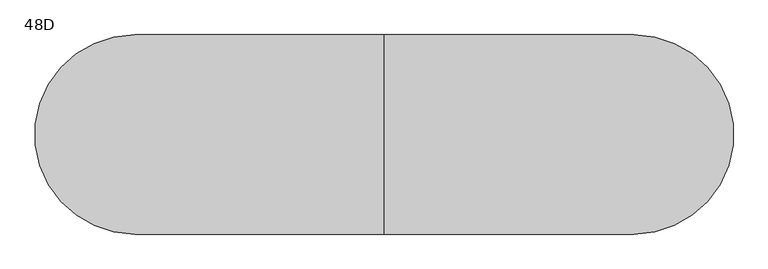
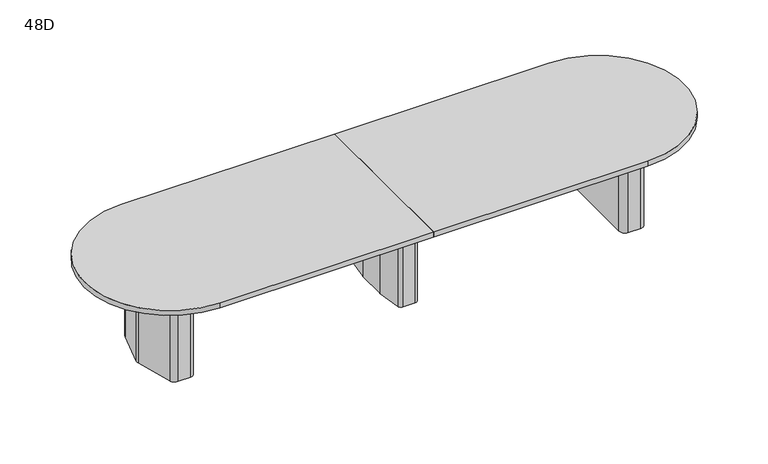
"""IFC4 building model written with IfcOpenShell, lengths in millimetres: furniture geometry, Coalesse_AM_Table_Conference_ETable2_Racetrack_14ft_ThreeBase : 48D."""

from ifc_helpers import new_model, si_unit, point, frame, frame_2d, origin, place, context, project, spatial, polyline, circle_curve, trimmed, segment, composite_curve, outline, extrude, source, transform, mapped, element, save
from ifc_brep_helpers import plane_surface, cylinder_surface, revolved_surface, advanced_brep


def furniture_48d_34605e6a(model_context):
    return source(origin(), model_context, "Body", "SolidModel", [
        advanced_brep(
        [(35.71875, 206.375, 3.175), (10.31875, 231.775, 3.175), (-10.31875, 231.775, 3.175), (-35.71875, 206.375, 3.175), (-35.71875, -206.375, 3.175), (-10.31875, -231.775, 3.175), (10.31875, -231.775, 3.175), (35.71875, -206.375, 3.175), (-61.11875, 206.375, 0.0), (-10.31875, 257.175, 0.0), (10.31875, 257.175, 0.0), (61.11875, 206.375, 0.0), (61.11875, -206.375, 0.0), (10.31875, -257.175, 0.0), (-10.31875, -257.175, 0.0), (-61.11875, -206.375, 0.0), (-61.11875, -206.375, 3.175), (-61.11875, 206.375, 3.175), (-10.31875, -257.175, 3.175), (10.31875, -257.175, 3.175), (61.11875, -206.375, 3.175), (61.11875, 206.375, 3.175), (10.31875, 257.175, 3.175), (-10.31875, 257.175, 3.175), (-92.6215974, 106.2976848, 698.5), (-92.86875, 102.7629613, 698.5), (-92.86875, -102.7629613, 698.5), (-92.6215974, -106.2976848, 698.5), (-67.7988375, -282.9347235, 698.5), (-42.6459902, -304.8, 698.5), (42.6459902, -304.8, 698.5), (67.7988375, -282.9347235, 698.5), (92.6215974, -106.2976848, 698.5), (92.86875, -102.7629613, 698.5), (92.86875, 102.7629613, 698.5), (92.6215974, 106.2976848, 698.5), (67.7988375, 282.9347235, 698.5), (42.6459902, 304.8, 698.5), (-42.6459902, 304.8, 698.5), (-67.7988375, 282.9347235, 698.5), (10.31875, 231.775, 698.5), (35.71875, 206.375, 698.5), (35.71875, -206.375, 698.5), (10.31875, -231.775, 698.5), (-10.31875, -231.775, 698.5), (-35.71875, -206.375, 698.5), (-35.71875, 206.375, 698.5), (-10.31875, 231.775, 698.5), (-92.6215974, 106.2976848, 3.175), (-67.7988375, 282.9347235, 3.175), (-42.6459902, 304.8, 3.175), (42.6459902, 304.8, 3.175), (67.7988375, 282.9347235, 3.175), (92.6215974, 106.2976848, 3.175), (92.86875, 102.7629613, 3.175), (92.86875, -102.7629613, 3.175), (92.6215974, -106.2976848, 3.175), (67.7988375, -282.9347235, 3.175), (42.6459902, -304.8, 3.175), (-42.6459902, -304.8, 3.175), (-67.7988375, -282.9347235, 3.175), (-92.6215974, -106.2976848, 3.175), (-92.86875, -102.7629613, 3.175), (-92.86875, 102.7629613, 3.175)],
        [
            (0, 1, circle_curve(frame((10.31875, 206.375, 3.175), z_axis=(0.0, 0.0, 1.0), x_axis=(1.0, 0.0, 0.0)), 25.4)),
            (1, 2),
            (2, 3, circle_curve(frame((-10.31875, 206.375, 3.175), z_axis=(0.0, 0.0, 1.0), x_axis=(1.0, 0.0, 0.0)), 25.4)),
            (3, 4),
            (4, 5, circle_curve(frame((-10.31875, -206.375, 3.175), z_axis=(0.0, 0.0, 1.0), x_axis=(1.0, 0.0, 0.0)), 25.4)),
            (5, 6),
            (6, 7, circle_curve(frame((10.31875, -206.375, 3.175), z_axis=(0.0, 0.0, 1.0), x_axis=(1.0, 0.0, 0.0)), 25.4)),
            (7, 0),
            (8, 9, circle_curve(frame((-10.31875, 206.375, 0.0), z_axis=(0.0, 0.0, -1.0), x_axis=(1.0, 0.0, 0.0)), 50.8)),
            (9, 10),
            (10, 11, circle_curve(frame((10.31875, 206.375, 0.0), z_axis=(0.0, 0.0, -1.0), x_axis=(1.0, 0.0, 0.0)), 50.8)),
            (11, 12),
            (12, 13, circle_curve(frame((10.31875, -206.375, 0.0), z_axis=(0.0, 0.0, -1.0), x_axis=(1.0, 0.0, 0.0)), 50.8)),
            (13, 14),
            (14, 15, circle_curve(frame((-10.31875, -206.375, 0.0), z_axis=(0.0, 0.0, -1.0), x_axis=(1.0, 0.0, 0.0)), 50.8)),
            (15, 8),
            (15, 16),
            (16, 17),
            (17, 8),
            (14, 18),
            (18, 16, circle_curve(frame((-10.31875, -206.375, 3.175), z_axis=(0.0, 0.0, -1.0), x_axis=(1.0, 0.0, 0.0)), 50.8)),
            (13, 19),
            (19, 18),
            (12, 20),
            (20, 19, circle_curve(frame((10.31875, -206.375, 3.175), z_axis=(0.0, 0.0, -1.0), x_axis=(1.0, 0.0, 0.0)), 50.8)),
            (11, 21),
            (21, 20),
            (10, 22),
            (22, 21, circle_curve(frame((10.31875, 206.375, 3.175), z_axis=(0.0, 0.0, -1.0), x_axis=(1.0, 0.0, 0.0)), 50.8)),
            (9, 23),
            (23, 22),
            (17, 23, circle_curve(frame((-10.31875, 206.375, 3.175), z_axis=(0.0, 0.0, -1.0), x_axis=(1.0, 0.0, 0.0)), 50.8)),
            (24, 25, circle_curve(frame((-67.46875, 102.7629613, 698.5), z_axis=(0.0, 0.0, 1.0), x_axis=(1.0, 0.0, 0.0)), 25.4)),
            (25, 26),
            (26, 27, circle_curve(frame((-67.46875, -102.7629613, 698.5), z_axis=(0.0, 0.0, 1.0), x_axis=(1.0, 0.0, 0.0)), 25.4)),
            (27, 28),
            (28, 29, circle_curve(frame((-42.6459902, -279.4, 698.5), z_axis=(0.0, 0.0, 1.0), x_axis=(1.0, 0.0, 0.0)), 25.4)),
            (29, 30),
            (30, 31, circle_curve(frame((42.6459902, -279.4, 698.5), z_axis=(0.0, 0.0, 1.0), x_axis=(1.0, 0.0, 0.0)), 25.4)),
            (31, 32),
            (32, 33, circle_curve(frame((67.46875, -102.7629613, 698.5), z_axis=(0.0, 0.0, 1.0), x_axis=(1.0, 0.0, 0.0)), 25.4)),
            (33, 34),
            (34, 35, circle_curve(frame((67.46875, 102.7629613, 698.5), z_axis=(0.0, 0.0, 1.0), x_axis=(1.0, 0.0, 0.0)), 25.4)),
            (35, 36),
            (36, 37, circle_curve(frame((42.6459902, 279.4, 698.5), z_axis=(0.0, 0.0, 1.0), x_axis=(1.0, 0.0, 0.0)), 25.4)),
            (37, 38),
            (38, 39, circle_curve(frame((-42.6459902, 279.4, 698.5), z_axis=(0.0, 0.0, 1.0), x_axis=(1.0, 0.0, 0.0)), 25.4)),
            (39, 24),
            (40, 41, circle_curve(frame((10.31875, 206.375, 698.5), z_axis=(0.0, 0.0, -1.0), x_axis=(1.0, 0.0, 0.0)), 25.4)),
            (41, 42),
            (42, 43, circle_curve(frame((10.31875, -206.375, 698.5), z_axis=(0.0, 0.0, -1.0), x_axis=(1.0, 0.0, 0.0)), 25.4)),
            (43, 44),
            (44, 45, circle_curve(frame((-10.31875, -206.375, 698.5), z_axis=(0.0, 0.0, -1.0), x_axis=(1.0, 0.0, 0.0)), 25.4)),
            (45, 46),
            (46, 47, circle_curve(frame((-10.31875, 206.375, 698.5), z_axis=(0.0, 0.0, -1.0), x_axis=(1.0, 0.0, 0.0)), 25.4)),
            (47, 40),
            (48, 49),
            (49, 50, circle_curve(frame((-42.6459902, 279.4, 3.175), z_axis=(0.0, 0.0, -1.0), x_axis=(1.0, 0.0, 0.0)), 25.4)),
            (50, 51),
            (51, 52, circle_curve(frame((42.6459902, 279.4, 3.175), z_axis=(0.0, 0.0, -1.0), x_axis=(1.0, 0.0, 0.0)), 25.4)),
            (52, 53),
            (53, 54, circle_curve(frame((67.46875, 102.7629613, 3.175), z_axis=(0.0, 0.0, -1.0), x_axis=(1.0, 0.0, 0.0)), 25.4)),
            (54, 55),
            (55, 56, circle_curve(frame((67.46875, -102.7629613, 3.175), z_axis=(0.0, 0.0, -1.0), x_axis=(1.0, 0.0, 0.0)), 25.4)),
            (56, 57),
            (57, 58, circle_curve(frame((42.6459902, -279.4, 3.175), z_axis=(0.0, 0.0, -1.0), x_axis=(1.0, 0.0, 0.0)), 25.4)),
            (58, 59),
            (59, 60, circle_curve(frame((-42.6459902, -279.4, 3.175), z_axis=(0.0, 0.0, -1.0), x_axis=(1.0, 0.0, 0.0)), 25.4)),
            (60, 61),
            (61, 62, circle_curve(frame((-67.46875, -102.7629613, 3.175), z_axis=(0.0, 0.0, -1.0), x_axis=(1.0, 0.0, 0.0)), 25.4)),
            (62, 63),
            (63, 48, circle_curve(frame((-67.46875, 102.7629613, 3.175), z_axis=(0.0, 0.0, -1.0), x_axis=(1.0, 0.0, 0.0)), 25.4)),
            (24, 48),
            (63, 25),
            (62, 26),
            (61, 27),
            (60, 28),
            (59, 29),
            (58, 30),
            (57, 31),
            (56, 32),
            (55, 33),
            (54, 34),
            (53, 35),
            (52, 36),
            (51, 37),
            (50, 38),
            (49, 39),
            (40, 1),
            (0, 41),
            (7, 42),
            (6, 43),
            (5, 44),
            (4, 45),
            (3, 46),
            (2, 47),
        ],
        [
            plane_surface(frame((-61.11875, -206.375, 3.175), z_axis=(0.0, 0.0, 1.0), x_axis=(0.0, -1.0, 0.0))),
            plane_surface(frame((-61.11875, -206.375, 0.0), z_axis=(0.0, 0.0, -1.0), x_axis=(0.0, 1.0, 0.0))),
            plane_surface(frame((-61.11875, 206.375, 3.175), z_axis=(-1.0, 0.0, 0.0), x_axis=(0.0, 0.0, -1.0))),
            cylinder_surface(frame((-10.31875, -206.375, 0.0), z_axis=(0.0, 0.0, 1.0), x_axis=(1.0, 0.0, 0.0)), 50.8),
            plane_surface(frame((-10.31875, -257.175, 3.175), z_axis=(0.0, -1.0, 0.0), x_axis=(0.0, 0.0, -1.0))),
            cylinder_surface(frame((10.31875, -206.375, 0.0), z_axis=(0.0, 0.0, 1.0), x_axis=(1.0, 0.0, 0.0)), 50.8),
            plane_surface(frame((61.11875, -206.375, 3.175), z_axis=(1.0, 0.0, 0.0), x_axis=(0.0, 0.0, -1.0))),
            cylinder_surface(frame((10.31875, 206.375, 0.0), z_axis=(0.0, 0.0, 1.0), x_axis=(1.0, 0.0, 0.0)), 50.8),
            plane_surface(frame((10.31875, 257.175, 3.175), z_axis=(0.0, 1.0, 0.0), x_axis=(0.0, 0.0, -1.0))),
            cylinder_surface(frame((-10.31875, 206.375, 0.0), z_axis=(0.0, 0.0, 1.0), x_axis=(1.0, 0.0, 0.0)), 50.8),
            plane_surface(frame((-42.06875, 102.7629613, 698.5), z_axis=(0.0, 0.0, 1.0), x_axis=(0.0, 1.0, 0.0))),
            plane_surface(frame((-42.06875, 102.7629613, 3.175), z_axis=(0.0, 0.0, -1.0), x_axis=(0.0, -1.0, 0.0))),
            cylinder_surface(frame((-67.46875, 102.7629613, 3.175), z_axis=(0.0, 0.0, 1.0), x_axis=(1.0, 0.0, 0.0)), 25.4),
            plane_surface(frame((-92.86875, 102.7629613, 698.5), z_axis=(-1.0, 0.0, 0.0), x_axis=(0.0, 0.0, -1.0))),
            cylinder_surface(frame((-67.46875, -102.7629613, 3.175), z_axis=(0.0, 0.0, 1.0), x_axis=(1.0, 0.0, 0.0)), 25.4),
            plane_surface(frame((-92.6215974, -106.2976848, 698.5), z_axis=(-0.9902695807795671, -0.13916234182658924, 0.0), x_axis=(0.0, 0.0, -1.0))),
            cylinder_surface(frame((-42.6459902, -279.4, 3.175), z_axis=(0.0, 0.0, 1.0), x_axis=(1.0, 0.0, 0.0)), 25.4),
            plane_surface(frame((-42.6459902, -304.8, 698.5), z_axis=(0.0, -1.0, 0.0), x_axis=(0.0, 0.0, -1.0))),
            cylinder_surface(frame((42.6459902, -279.4, 3.175), z_axis=(0.0, 0.0, 1.0), x_axis=(1.0, 0.0, 0.0)), 25.4),
            plane_surface(frame((67.7988375, -282.9347235, 698.5), z_axis=(0.9902695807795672, -0.13916234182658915, 0.0), x_axis=(0.0, 0.0, -1.0))),
            cylinder_surface(frame((67.46875, -102.7629613, 3.175), z_axis=(0.0, 0.0, 1.0), x_axis=(1.0, 0.0, 0.0)), 25.4),
            plane_surface(frame((92.86875, -102.7629613, 698.5), z_axis=(1.0, 0.0, 0.0), x_axis=(0.0, 0.0, -1.0))),
            cylinder_surface(frame((67.46875, 102.7629613, 3.175), z_axis=(0.0, 0.0, 1.0), x_axis=(1.0, 0.0, 0.0)), 25.4),
            plane_surface(frame((92.6215974, 106.2976848, 698.5), z_axis=(0.9902695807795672, 0.1391623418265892, 0.0), x_axis=(0.0, 0.0, -1.0))),
            cylinder_surface(frame((42.6459902, 279.4, 3.175), z_axis=(0.0, 0.0, 1.0), x_axis=(1.0, 0.0, 0.0)), 25.4),
            plane_surface(frame((42.6459902, 304.8, 698.5), z_axis=(0.0, 1.0, 0.0), x_axis=(0.0, 0.0, -1.0))),
            cylinder_surface(frame((-42.6459902, 279.4, 3.175), z_axis=(0.0, 0.0, 1.0), x_axis=(1.0, 0.0, 0.0)), 25.4),
            plane_surface(frame((-67.7988375, 282.9347235, 698.5), z_axis=(-0.9902695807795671, 0.13916234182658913, 0.0), x_axis=(0.0, 0.0, -1.0))),
            revolved_surface(polyline([(35.71875, 206.375, 3.175), (35.71875, 206.375, 698.5)]), (10.31875, 206.375, 0.0), (0.0, 0.0, -1.0)),
            plane_surface(frame((35.71875, 206.375, 698.5), z_axis=(-1.0, 0.0, 0.0), x_axis=(0.0, 0.0, -1.0))),
            revolved_surface(polyline([(35.71875, -206.375, 3.175), (35.71875, -206.375, 698.5)]), (10.31875, -206.375, 0.0), (0.0, 0.0, -1.0)),
            plane_surface(frame((10.31875, -231.775, 698.5), z_axis=(0.0, 1.0, 0.0), x_axis=(0.0, 0.0, -1.0))),
            revolved_surface(polyline([(15.081249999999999, -206.375, 3.175), (15.081249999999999, -206.375, 698.5)]), (-10.31875, -206.375, 0.0), (0.0, 0.0, -1.0)),
            plane_surface(frame((-35.71875, -206.375, 698.5), z_axis=(1.0, 0.0, 0.0), x_axis=(0.0, 0.0, -1.0))),
            revolved_surface(polyline([(15.081249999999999, 206.375, 3.175), (15.081249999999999, 206.375, 698.5)]), (-10.31875, 206.375, 0.0), (0.0, 0.0, -1.0)),
            plane_surface(frame((-10.31875, 231.775, 698.5), z_axis=(0.0, -1.0, 0.0), x_axis=(0.0, 0.0, -1.0))),
        ],
        [
            (0, [[1, 2, 3, 4, 5, 6, 7, 8]]),
            (1, [[9, 10, 11, 12, 13, 14, 15, 16]]),
            (2, [[-16, 17, 18, 19]]),
            (3, [[-15, 20, 21, -17]]),
            (4, [[-14, 22, 23, -20]]),
            (5, [[-13, 24, 25, -22]]),
            (6, [[-12, 26, 27, -24]]),
            (7, [[-11, 28, 29, -26]]),
            (8, [[-10, 30, 31, -28]]),
            (9, [[-9, -19, 32, -30]]),
            (10, [[33, 34, 35, 36, 37, 38, 39, 40, 41, 42, 43, 44, 45, 46, 47, 48], [49, 50, 51, 52, 53, 54, 55, 56]]),
            (11, [[57, 58, 59, 60, 61, 62, 63, 64, 65, 66, 67, 68, 69, 70, 71, 72], [-18, -21, -23, -25, -27, -29, -31, -32]]),
            (12, [[-33, 73, -72, 74]]),
            (13, [[-34, -74, -71, 75]]),
            (14, [[-35, -75, -70, 76]]),
            (15, [[-36, -76, -69, 77]]),
            (16, [[-37, -77, -68, 78]]),
            (17, [[-38, -78, -67, 79]]),
            (18, [[-39, -79, -66, 80]]),
            (19, [[-40, -80, -65, 81]]),
            (20, [[-41, -81, -64, 82]]),
            (21, [[-42, -82, -63, 83]]),
            (22, [[-43, -83, -62, 84]]),
            (23, [[-44, -84, -61, 85]]),
            (24, [[-45, -85, -60, 86]]),
            (25, [[-46, -86, -59, 87]]),
            (26, [[-47, -87, -58, 88]]),
            (27, [[-48, -88, -57, -73]]),
            (28, [[-49, 89, -1, 90]]),
            (29, [[-50, -90, -8, 91]]),
            (30, [[-51, -91, -7, 92]]),
            (31, [[-52, -92, -6, 93]]),
            (32, [[-53, -93, -5, 94]]),
            (33, [[-54, -94, -4, 95]]),
            (34, [[-55, -95, -3, 96]]),
            (35, [[-56, -96, -2, -89]]),
        ],
    ),
        advanced_brep(
        [(1687.724548, 274.2093613, 698.5), (1647.8579246, 304.8, 698.5), (1558.925, 304.8, 698.5), (1517.65, 263.525, 698.5), (1517.65, -263.525, 698.5), (1558.925, -304.8, 698.5), (1647.8579246, -304.8, 698.5), (1687.724548, -274.2093613, 698.5), (1758.3503901, -10.6333708, 698.5), (1758.3503901, 10.6333708, 698.5), (1555.75, -206.375, 698.5), (1555.75, 206.375, 698.5), (1581.15, 231.775, 698.5), (1640.1608422, 231.775, 698.5), (1664.695338, 212.9490792, 698.5), (1703.3875, 68.54974, 698.5), (1703.3875, -68.54974, 698.5), (1664.695338, -212.9490792, 698.5), (1640.1608422, -231.775, 698.5), (1581.15, -231.775, 698.5), (1687.724548, 274.2093613, 3.175), (1758.3503901, 10.6333708, 3.175), (1758.3503901, -10.6333708, 3.175), (1687.724548, -274.2093613, 3.175), (1647.8579246, -304.8, 3.175), (1558.925, -304.8, 3.175), (1517.65, -263.525, 3.175), (1517.65, 263.525, 3.175), (1558.925, 304.8, 3.175), (1647.8579246, 304.8, 3.175), (1676.9625859, 216.2361187, 3.175), (1640.1608422, 244.475, 3.175), (1581.15, 244.475, 3.175), (1543.05, 206.375, 3.175), (1543.05, -206.375, 3.175), (1581.15, -244.475, 3.175), (1640.1608422, -244.475, 3.175), (1676.9625859, -216.2361187, 3.175), (1716.0875, -70.2217466, 3.175), (1716.0875, 70.2217466, 3.175), (1581.15, -231.775, 3.175), (1555.75, -206.375, 3.175), (1640.1608422, -231.775, 3.175), (1664.695338, -212.9490792, 3.175), (1703.3875, -68.54974, 3.175), (1703.3875, 68.54974, 3.175), (1664.695338, 212.9490792, 3.175), (1640.1608422, 231.775, 3.175), (1581.15, 231.775, 3.175), (1555.75, 206.375, 3.175), (1676.9625859, 216.2361187, 0.0), (1716.0875, 70.2217466, 0.0), (1716.0875, -70.2217466, 0.0), (1676.9625859, -216.2361187, 0.0), (1640.1608422, -244.475, 0.0), (1581.15, -244.475, 0.0), (1543.05, -206.375, 0.0), (1543.05, 206.375, 0.0), (1581.15, 244.475, 0.0), (1640.1608422, 244.475, 0.0)],
        [
            (0, 1, circle_curve(frame((1647.8579246, 263.5270004, 698.5), z_axis=(0.0, 0.0, 1.0), x_axis=(-1.0, 0.0, 0.0)), 41.2729996)),
            (1, 2),
            (2, 3, circle_curve(frame((1558.925, 263.525, 698.5), z_axis=(0.0, 0.0, 1.0), x_axis=(-1.0, 0.0, 0.0)), 41.275)),
            (3, 4),
            (4, 5, circle_curve(frame((1558.925, -263.525, 698.5), z_axis=(0.0, 0.0, 1.0), x_axis=(-1.0, 0.0, 0.0)), 41.275)),
            (5, 6),
            (6, 7, circle_curve(frame((1647.8579246, -263.5270004, 698.5), z_axis=(0.0, 0.0, 1.0), x_axis=(-1.0, 0.0, 0.0)), 41.2729996)),
            (7, 8),
            (8, 9, circle_curve(frame((1718.6665979, 0.0, 698.5), z_axis=(0.0, 0.0, 1.0), x_axis=(-1.0, 0.0, 0.0)), 41.0837187)),
            (9, 0),
            (10, 11),
            (11, 12, circle_curve(frame((1581.15, 206.375, 698.5), z_axis=(0.0, 0.0, -1.0), x_axis=(-1.0, 0.0, 0.0)), 25.4)),
            (12, 13),
            (13, 14, circle_curve(frame((1640.1608422, 206.375, 698.5), z_axis=(0.0, 0.0, -1.0), x_axis=(-1.0, 0.0, 0.0)), 25.4)),
            (14, 15),
            (15, 16),
            (16, 17),
            (17, 18, circle_curve(frame((1640.1608422, -206.375, 698.5), z_axis=(0.0, 0.0, -1.0), x_axis=(-1.0, 0.0, 0.0)), 25.4)),
            (18, 19),
            (19, 10, circle_curve(frame((1581.15, -206.375, 698.5), z_axis=(0.0, 0.0, -1.0), x_axis=(-1.0, 0.0, 0.0)), 25.4)),
            (20, 21),
            (21, 22, circle_curve(frame((1718.6665979, 0.0, 3.175), z_axis=(0.0, 0.0, -1.0), x_axis=(-1.0, 0.0, 0.0)), 41.0837187)),
            (22, 23),
            (23, 24, circle_curve(frame((1647.8579246, -263.5270004, 3.175), z_axis=(0.0, 0.0, -1.0), x_axis=(-1.0, 0.0, 0.0)), 41.2729996)),
            (24, 25),
            (25, 26, circle_curve(frame((1558.925, -263.525, 3.175), z_axis=(0.0, 0.0, -1.0), x_axis=(-1.0, 0.0, 0.0)), 41.275)),
            (26, 27),
            (27, 28, circle_curve(frame((1558.925, 263.525, 3.175), z_axis=(0.0, 0.0, -1.0), x_axis=(-1.0, 0.0, 0.0)), 41.275)),
            (28, 29),
            (29, 20, circle_curve(frame((1647.8579246, 263.5270004, 3.175), z_axis=(0.0, 0.0, -1.0), x_axis=(-1.0, 0.0, 0.0)), 41.2729996)),
            (30, 31, circle_curve(frame((1640.1608422, 206.375, 3.175), z_axis=(0.0, 0.0, 1.0), x_axis=(-1.0, 0.0, 0.0)), 38.1)),
            (31, 32),
            (32, 33, circle_curve(frame((1581.15, 206.375, 3.175), z_axis=(0.0, 0.0, 1.0), x_axis=(-1.0, 0.0, 0.0)), 38.1)),
            (33, 34),
            (34, 35, circle_curve(frame((1581.15, -206.375, 3.175), z_axis=(0.0, 0.0, 1.0), x_axis=(-1.0, 0.0, 0.0)), 38.1)),
            (35, 36),
            (36, 37, circle_curve(frame((1640.1608422, -206.375, 3.175), z_axis=(0.0, 0.0, 1.0), x_axis=(-1.0, 0.0, 0.0)), 38.1)),
            (37, 38),
            (38, 39),
            (39, 30),
            (9, 21),
            (20, 0),
            (8, 22),
            (7, 23),
            (6, 24),
            (5, 25),
            (4, 26),
            (3, 27),
            (2, 28),
            (1, 29),
            (19, 40),
            (40, 41, circle_curve(frame((1581.15, -206.375, 3.175), z_axis=(0.0, 0.0, -1.0), x_axis=(-1.0, 0.0, 0.0)), 25.4)),
            (41, 10),
            (18, 42),
            (42, 40),
            (17, 43),
            (43, 42, circle_curve(frame((1640.1608422, -206.375, 3.175), z_axis=(0.0, 0.0, -1.0), x_axis=(-1.0, 0.0, 0.0)), 25.4)),
            (16, 44),
            (44, 43),
            (15, 45),
            (45, 44),
            (14, 46),
            (46, 45),
            (13, 47),
            (47, 46, circle_curve(frame((1640.1608422, 206.375, 3.175), z_axis=(0.0, 0.0, -1.0), x_axis=(-1.0, 0.0, 0.0)), 25.4)),
            (12, 48),
            (48, 47),
            (11, 49),
            (49, 48, circle_curve(frame((1581.15, 206.375, 3.175), z_axis=(0.0, 0.0, -1.0), x_axis=(-1.0, 0.0, 0.0)), 25.4)),
            (41, 49),
            (50, 51),
            (51, 52),
            (52, 53),
            (53, 54, circle_curve(frame((1640.1608422, -206.375, 0.0), z_axis=(0.0, 0.0, -1.0), x_axis=(-1.0, 0.0, 0.0)), 38.1)),
            (54, 55),
            (55, 56, circle_curve(frame((1581.15, -206.375, 0.0), z_axis=(0.0, 0.0, -1.0), x_axis=(-1.0, 0.0, 0.0)), 38.1)),
            (56, 57),
            (57, 58, circle_curve(frame((1581.15, 206.375, 0.0), z_axis=(0.0, 0.0, -1.0), x_axis=(-1.0, 0.0, 0.0)), 38.1)),
            (58, 59),
            (59, 50, circle_curve(frame((1640.1608422, 206.375, 0.0), z_axis=(0.0, 0.0, -1.0), x_axis=(-1.0, 0.0, 0.0)), 38.1)),
            (50, 30),
            (39, 51),
            (38, 52),
            (37, 53),
            (36, 54),
            (35, 55),
            (34, 56),
            (33, 57),
            (32, 58),
            (31, 59),
        ],
        [
            plane_surface(frame((1758.3374275, 10.6817473, 698.5), z_axis=(0.0, 0.0, 1.0000000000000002), x_axis=(0.25882201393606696, -0.9659250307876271, 0.0))),
            plane_surface(frame((1758.3374275, 10.6817473, 3.175), z_axis=(0.0, 0.0, -1.0000000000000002), x_axis=(-0.25882201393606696, 0.9659250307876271, 0.0))),
            plane_surface(frame((1687.724548, 274.2093613, 698.5), z_axis=(0.9659250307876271, 0.25882201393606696, 0.0), x_axis=(0.0, 0.0, -1.0))),
            cylinder_surface(frame((1718.6665979, 0.0, 3.175), z_axis=(0.0, 0.0, 1.0), x_axis=(-1.0, 0.0, 0.0)), 41.0837187),
            plane_surface(frame((1758.3503901, -10.6333708, 698.5), z_axis=(0.9659250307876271, -0.2588220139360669, 0.0), x_axis=(0.0, 0.0, -1.0))),
            cylinder_surface(frame((1647.8579246, -263.5270004, 3.175), z_axis=(0.0, 0.0, 1.0), x_axis=(-1.0, 0.0, 0.0)), 41.2729996),
            plane_surface(frame((1647.8579246, -304.8, 698.5), z_axis=(0.0, -1.0, 0.0), x_axis=(0.0, 0.0, -1.0))),
            cylinder_surface(frame((1558.925, -263.525, 3.175), z_axis=(0.0, 0.0, 1.0), x_axis=(-1.0, 0.0, 0.0)), 41.275),
            plane_surface(frame((1517.65, -263.525, 698.5), z_axis=(-1.0, 0.0, 0.0), x_axis=(0.0, 0.0, -1.0))),
            cylinder_surface(frame((1558.925, 263.525, 3.175), z_axis=(0.0, 0.0, 1.0), x_axis=(-1.0, 0.0, 0.0)), 41.275),
            plane_surface(frame((1558.925, 304.8, 698.5), z_axis=(0.0, 1.0, 0.0), x_axis=(0.0, 0.0, -1.0))),
            cylinder_surface(frame((1647.8579246, 263.5270004, 3.175), z_axis=(0.0, 0.0, 1.0), x_axis=(-1.0, 0.0, 0.0)), 41.2729996),
            revolved_surface(polyline([(1555.75, -206.375, 3.175), (1555.75, -206.375, 698.5)]), (1581.15, -206.375, 0.0), (0.0, 0.0, -1.0)),
            plane_surface(frame((1581.15, -231.775, 698.5), z_axis=(0.0, 1.0, 0.0), x_axis=(0.0, 0.0, -1.0))),
            revolved_surface(polyline([(1614.7608421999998, -206.375, 3.175), (1614.7608421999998, -206.375, 698.5)]), (1640.1608422, -206.375, 0.0), (0.0, 0.0, -1.0)),
            plane_surface(frame((1664.695338, -212.9490792, 698.5), z_axis=(-0.9659250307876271, 0.2588220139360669, 0.0), x_axis=(0.0, 0.0, -1.0))),
            plane_surface(frame((1703.3875, -68.54974, 698.5), z_axis=(-1.0, 0.0, 0.0), x_axis=(0.0, 0.0, -1.0))),
            plane_surface(frame((1703.3875, 68.54974, 698.5), z_axis=(-0.9659250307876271, -0.25882201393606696, 0.0), x_axis=(0.0, 0.0, -1.0))),
            revolved_surface(polyline([(1614.7608421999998, 206.375, 3.175), (1614.7608421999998, 206.375, 698.5)]), (1640.1608422, 206.375, 0.0), (0.0, 0.0, -1.0)),
            plane_surface(frame((1640.1608422, 231.775, 698.5), z_axis=(0.0, -1.0, 0.0), x_axis=(0.0, 0.0, -1.0))),
            revolved_surface(polyline([(1555.75, 206.375, 3.175), (1555.75, 206.375, 698.5)]), (1581.15, 206.375, 0.0), (0.0, 0.0, -1.0)),
            plane_surface(frame((1555.75, 206.375, 698.5), z_axis=(1.0, 0.0, 0.0), x_axis=(0.0, 0.0, -1.0))),
            plane_surface(frame((1715.6547479, 71.8367796, 3.175), z_axis=(0.0, 0.0, 1.0), x_axis=(0.25882201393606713, -0.965925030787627, 0.0))),
            plane_surface(frame((1715.6547479, 71.8367796, 0.0), z_axis=(0.0, 0.0, -1.0), x_axis=(-0.25882201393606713, 0.965925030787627, 0.0))),
            plane_surface(frame((1676.9625859, 216.2361187, 3.175), z_axis=(0.965925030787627, 0.25882201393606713, 0.0), x_axis=(0.0, 0.0, -1.0))),
            plane_surface(frame((1716.0875, 70.2217466, 3.175), z_axis=(1.0, 0.0, 0.0), x_axis=(0.0, 0.0, -1.0))),
            plane_surface(frame((1716.0875, -70.2217466, 3.175), z_axis=(0.9659250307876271, -0.2588220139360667, 0.0), x_axis=(0.0, 0.0, -1.0))),
            cylinder_surface(frame((1640.1608422, -206.375, 0.0), z_axis=(0.0, 0.0, 1.0), x_axis=(-1.0, 0.0, 0.0)), 38.1),
            plane_surface(frame((1640.1608422, -244.475, 3.175), z_axis=(0.0, -1.0, 0.0), x_axis=(0.0, 0.0, -1.0))),
            cylinder_surface(frame((1581.15, -206.375, 0.0), z_axis=(0.0, 0.0, 1.0), x_axis=(-1.0, 0.0, 0.0)), 38.1),
            plane_surface(frame((1543.05, -206.375, 3.175), z_axis=(-1.0, 0.0, 0.0), x_axis=(0.0, 0.0, -1.0))),
            cylinder_surface(frame((1581.15, 206.375, 0.0), z_axis=(0.0, 0.0, 1.0), x_axis=(-1.0, 0.0, 0.0)), 38.1),
            plane_surface(frame((1581.15, 244.475, 3.175), z_axis=(0.0, 1.0, 0.0), x_axis=(0.0, 0.0, -1.0))),
            cylinder_surface(frame((1640.1608422, 206.375, 0.0), z_axis=(0.0, 0.0, 1.0), x_axis=(-1.0, 0.0, 0.0)), 38.1),
        ],
        [
            (0, [[1, 2, 3, 4, 5, 6, 7, 8, 9, 10], [11, 12, 13, 14, 15, 16, 17, 18, 19, 20]]),
            (1, [[21, 22, 23, 24, 25, 26, 27, 28, 29, 30], [31, 32, 33, 34, 35, 36, 37, 38, 39, 40]]),
            (2, [[41, -21, 42, -10]]),
            (3, [[43, -22, -41, -9]]),
            (4, [[44, -23, -43, -8]]),
            (5, [[45, -24, -44, -7]]),
            (6, [[46, -25, -45, -6]]),
            (7, [[47, -26, -46, -5]]),
            (8, [[48, -27, -47, -4]]),
            (9, [[49, -28, -48, -3]]),
            (10, [[50, -29, -49, -2]]),
            (11, [[-42, -30, -50, -1]]),
            (12, [[51, 52, 53, -20]]),
            (13, [[54, 55, -51, -19]]),
            (14, [[56, 57, -54, -18]]),
            (15, [[58, 59, -56, -17]]),
            (16, [[60, 61, -58, -16]]),
            (17, [[62, 63, -60, -15]]),
            (18, [[64, 65, -62, -14]]),
            (19, [[66, 67, -64, -13]]),
            (20, [[68, 69, -66, -12]]),
            (21, [[-53, 70, -68, -11]]),
            (22, [[-55, -57, -59, -61, -63, -65, -67, -69, -70, -52]]),
            (23, [[71, 72, 73, 74, 75, 76, 77, 78, 79, 80]]),
            (24, [[81, -40, 82, -71]]),
            (25, [[-82, -39, 83, -72]]),
            (26, [[-83, -38, 84, -73]]),
            (27, [[-84, -37, 85, -74]]),
            (28, [[-85, -36, 86, -75]]),
            (29, [[-86, -35, 87, -76]]),
            (30, [[-87, -34, 88, -77]]),
            (31, [[-88, -33, 89, -78]]),
            (32, [[-89, -32, 90, -79]]),
            (33, [[-90, -31, -81, -80]]),
        ],
    ),
        advanced_brep(
        [(-1686.137048, 274.2093613, 698.5), (-1756.7628901, 10.6333708, 698.5), (-1756.7628901, -10.6333708, 698.5), (-1686.137048, -274.2093613, 698.5), (-1646.2704246, -304.8, 698.5), (-1557.3375, -304.8, 698.5), (-1516.0625, -263.525, 698.5), (-1516.0625, 263.525, 698.5), (-1557.3375, 304.8, 698.5), (-1646.2704246, 304.8, 698.5), (-1554.1625, -206.375, 698.5), (-1579.5625, -231.775, 698.5), (-1638.5733422, -231.775, 698.5), (-1663.107838, -212.9490792, 698.5), (-1701.8, -68.54974, 698.5), (-1701.8, 68.54974, 698.5), (-1663.107838, 212.9490792, 698.5), (-1638.5733422, 231.775, 698.5), (-1579.5625, 231.775, 698.5), (-1554.1625, 206.375, 698.5), (-1686.137048, 274.2093613, 3.175), (-1646.2704246, 304.8, 3.175), (-1557.3375, 304.8, 3.175), (-1516.0625, 263.525, 3.175), (-1516.0625, -263.525, 3.175), (-1557.3375, -304.8, 3.175), (-1646.2704246, -304.8, 3.175), (-1686.137048, -274.2093613, 3.175), (-1756.7628901, -10.6333708, 3.175), (-1756.7628901, 10.6333708, 3.175), (-1675.3750859, 216.2361187, 3.175), (-1714.5, 70.2217466, 3.175), (-1714.5, -70.2217466, 3.175), (-1675.3750859, -216.2361187, 3.175), (-1638.5733422, -244.475, 3.175), (-1579.5625, -244.475, 3.175), (-1541.4625, -206.375, 3.175), (-1541.4625, 206.375, 3.175), (-1579.5625, 244.475, 3.175), (-1638.5733422, 244.475, 3.175), (-1554.1625, -206.375, 3.175), (-1579.5625, -231.775, 3.175), (-1638.5733422, -231.775, 3.175), (-1663.107838, -212.9490792, 3.175), (-1701.8, -68.54974, 3.175), (-1701.8, 68.54974, 3.175), (-1663.107838, 212.9490792, 3.175), (-1638.5733422, 231.775, 3.175), (-1579.5625, 231.775, 3.175), (-1554.1625, 206.375, 3.175), (-1675.3750859, 216.2361187, 0.0), (-1638.5733422, 244.475, 0.0), (-1579.5625, 244.475, 0.0), (-1541.4625, 206.375, 0.0), (-1541.4625, -206.375, 0.0), (-1579.5625, -244.475, 0.0), (-1638.5733422, -244.475, 0.0), (-1675.3750859, -216.2361187, 0.0), (-1714.5, -70.2217466, 0.0), (-1714.5, 70.2217466, 0.0)],
        [
            (0, 1),
            (1, 2, circle_curve(frame((-1717.0790979, 0.0, 698.5), z_axis=(0.0, 0.0, 1.0), x_axis=(1.0, 0.0, 0.0)), 41.0837187)),
            (2, 3),
            (3, 4, circle_curve(frame((-1646.2704246, -263.5270004, 698.5), z_axis=(0.0, 0.0, 1.0), x_axis=(1.0, 0.0, 0.0)), 41.2729996)),
            (4, 5),
            (5, 6, circle_curve(frame((-1557.3375, -263.525, 698.5), z_axis=(0.0, 0.0, 1.0), x_axis=(1.0, 0.0, 0.0)), 41.275)),
            (6, 7),
            (7, 8, circle_curve(frame((-1557.3375, 263.525, 698.5), z_axis=(0.0, 0.0, 1.0), x_axis=(1.0, 0.0, 0.0)), 41.275)),
            (8, 9),
            (9, 0, circle_curve(frame((-1646.2704246, 263.5270004, 698.5), z_axis=(0.0, 0.0, 1.0), x_axis=(1.0, 0.0, 0.0)), 41.2729996)),
            (10, 11, circle_curve(frame((-1579.5625, -206.375, 698.5), z_axis=(0.0, 0.0, -1.0), x_axis=(1.0, 0.0, 0.0)), 25.4)),
            (11, 12),
            (12, 13, circle_curve(frame((-1638.5733422, -206.375, 698.5), z_axis=(0.0, 0.0, -1.0), x_axis=(1.0, 0.0, 0.0)), 25.4)),
            (13, 14),
            (14, 15),
            (15, 16),
            (16, 17, circle_curve(frame((-1638.5733422, 206.375, 698.5), z_axis=(0.0, 0.0, -1.0), x_axis=(1.0, 0.0, 0.0)), 25.4)),
            (17, 18),
            (18, 19, circle_curve(frame((-1579.5625, 206.375, 698.5), z_axis=(0.0, 0.0, -1.0), x_axis=(1.0, 0.0, 0.0)), 25.4)),
            (19, 10),
            (20, 21, circle_curve(frame((-1646.2704246, 263.5270004, 3.175), z_axis=(0.0, 0.0, -1.0), x_axis=(1.0, 0.0, 0.0)), 41.2729996)),
            (21, 22),
            (22, 23, circle_curve(frame((-1557.3375, 263.525, 3.175), z_axis=(0.0, 0.0, -1.0), x_axis=(1.0, 0.0, 0.0)), 41.275)),
            (23, 24),
            (24, 25, circle_curve(frame((-1557.3375, -263.525, 3.175), z_axis=(0.0, 0.0, -1.0), x_axis=(1.0, 0.0, 0.0)), 41.275)),
            (25, 26),
            (26, 27, circle_curve(frame((-1646.2704246, -263.5270004, 3.175), z_axis=(0.0, 0.0, -1.0), x_axis=(1.0, 0.0, 0.0)), 41.2729996)),
            (27, 28),
            (28, 29, circle_curve(frame((-1717.0790979, 0.0, 3.175), z_axis=(0.0, 0.0, -1.0), x_axis=(1.0, 0.0, 0.0)), 41.0837187)),
            (29, 20),
            (30, 31),
            (31, 32),
            (32, 33),
            (33, 34, circle_curve(frame((-1638.5733422, -206.375, 3.175), z_axis=(0.0, 0.0, 1.0), x_axis=(1.0, 0.0, 0.0)), 38.1)),
            (34, 35),
            (35, 36, circle_curve(frame((-1579.5625, -206.375, 3.175), z_axis=(0.0, 0.0, 1.0), x_axis=(1.0, 0.0, 0.0)), 38.1)),
            (36, 37),
            (37, 38, circle_curve(frame((-1579.5625, 206.375, 3.175), z_axis=(0.0, 0.0, 1.0), x_axis=(1.0, 0.0, 0.0)), 38.1)),
            (38, 39),
            (39, 30, circle_curve(frame((-1638.5733422, 206.375, 3.175), z_axis=(0.0, 0.0, 1.0), x_axis=(1.0, 0.0, 0.0)), 38.1)),
            (0, 20),
            (29, 1),
            (28, 2),
            (27, 3),
            (26, 4),
            (25, 5),
            (24, 6),
            (23, 7),
            (22, 8),
            (21, 9),
            (10, 40),
            (40, 41, circle_curve(frame((-1579.5625, -206.375, 3.175), z_axis=(0.0, 0.0, -1.0), x_axis=(1.0, 0.0, 0.0)), 25.4)),
            (41, 11),
            (41, 42),
            (42, 12),
            (42, 43, circle_curve(frame((-1638.5733422, -206.375, 3.175), z_axis=(0.0, 0.0, -1.0), x_axis=(1.0, 0.0, 0.0)), 25.4)),
            (43, 13),
            (43, 44),
            (44, 14),
            (44, 45),
            (45, 15),
            (45, 46),
            (46, 16),
            (46, 47, circle_curve(frame((-1638.5733422, 206.375, 3.175), z_axis=(0.0, 0.0, -1.0), x_axis=(1.0, 0.0, 0.0)), 25.4)),
            (47, 17),
            (47, 48),
            (48, 18),
            (48, 49, circle_curve(frame((-1579.5625, 206.375, 3.175), z_axis=(0.0, 0.0, -1.0), x_axis=(1.0, 0.0, 0.0)), 25.4)),
            (49, 19),
            (49, 40),
            (50, 51, circle_curve(frame((-1638.5733422, 206.375, 0.0), z_axis=(0.0, 0.0, -1.0), x_axis=(1.0, 0.0, 0.0)), 38.1)),
            (51, 52),
            (52, 53, circle_curve(frame((-1579.5625, 206.375, 0.0), z_axis=(0.0, 0.0, -1.0), x_axis=(1.0, 0.0, 0.0)), 38.1)),
            (53, 54),
            (54, 55, circle_curve(frame((-1579.5625, -206.375, 0.0), z_axis=(0.0, 0.0, -1.0), x_axis=(1.0, 0.0, 0.0)), 38.1)),
            (55, 56),
            (56, 57, circle_curve(frame((-1638.5733422, -206.375, 0.0), z_axis=(0.0, 0.0, -1.0), x_axis=(1.0, 0.0, 0.0)), 38.1)),
            (57, 58),
            (58, 59),
            (59, 50),
            (59, 31),
            (30, 50),
            (58, 32),
            (57, 33),
            (56, 34),
            (55, 35),
            (54, 36),
            (53, 37),
            (52, 38),
            (51, 39),
        ],
        [
            plane_surface(frame((-1756.7499275, 10.6817473, 698.5), z_axis=(0.0, 0.0, 1.0000000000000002), x_axis=(-0.25882201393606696, -0.9659250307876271, 0.0))),
            plane_surface(frame((-1756.7499275, 10.6817473, 3.175), z_axis=(0.0, 0.0, -1.0000000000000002), x_axis=(0.25882201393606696, 0.9659250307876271, 0.0))),
            plane_surface(frame((-1686.137048, 274.2093613, 698.5), z_axis=(-0.9659250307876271, 0.25882201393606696, 0.0), x_axis=(0.0, 0.0, -1.0))),
            cylinder_surface(frame((-1717.0790979, 0.0, 3.175), z_axis=(0.0, 0.0, 1.0), x_axis=(1.0, 0.0, 0.0)), 41.0837187),
            plane_surface(frame((-1756.7628901, -10.6333708, 698.5), z_axis=(-0.9659250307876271, -0.2588220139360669, 0.0), x_axis=(0.0, 0.0, -1.0))),
            cylinder_surface(frame((-1646.2704246, -263.5270004, 3.175), z_axis=(0.0, 0.0, 1.0), x_axis=(1.0, 0.0, 0.0)), 41.2729996),
            plane_surface(frame((-1646.2704246, -304.8, 698.5), z_axis=(0.0, -1.0, 0.0), x_axis=(0.0, 0.0, -1.0))),
            cylinder_surface(frame((-1557.3375, -263.525, 3.175), z_axis=(0.0, 0.0, 1.0), x_axis=(1.0, 0.0, 0.0)), 41.275),
            plane_surface(frame((-1516.0625, -263.525, 698.5), z_axis=(1.0, 0.0, 0.0), x_axis=(0.0, 0.0, -1.0))),
            cylinder_surface(frame((-1557.3375, 263.525, 3.175), z_axis=(0.0, 0.0, 1.0), x_axis=(1.0, 0.0, 0.0)), 41.275),
            plane_surface(frame((-1557.3375, 304.8, 698.5), z_axis=(0.0, 1.0, 0.0), x_axis=(0.0, 0.0, -1.0))),
            cylinder_surface(frame((-1646.2704246, 263.5270004, 3.175), z_axis=(0.0, 0.0, 1.0), x_axis=(1.0, 0.0, 0.0)), 41.2729996),
            revolved_surface(polyline([(-1554.1625, -206.375, 3.175), (-1554.1625, -206.375, 698.5)]), (-1579.5625, -206.375, 0.0), (0.0, 0.0, -1.0)),
            plane_surface(frame((-1579.5625, -231.775, 698.5), z_axis=(0.0, 1.0, 0.0), x_axis=(0.0, 0.0, -1.0))),
            revolved_surface(polyline([(-1613.1733422, -206.375, 3.175), (-1613.1733422, -206.375, 698.5)]), (-1638.5733422, -206.375, 0.0), (0.0, 0.0, -1.0)),
            plane_surface(frame((-1663.107838, -212.9490792, 698.5), z_axis=(0.9659250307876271, 0.2588220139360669, 0.0), x_axis=(0.0, 0.0, -1.0))),
            plane_surface(frame((-1701.8, -68.54974, 698.5), z_axis=(1.0, 0.0, 0.0), x_axis=(0.0, 0.0, -1.0))),
            plane_surface(frame((-1701.8, 68.54974, 698.5), z_axis=(0.9659250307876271, -0.25882201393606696, 0.0), x_axis=(0.0, 0.0, -1.0))),
            revolved_surface(polyline([(-1613.1733422, 206.375, 3.175), (-1613.1733422, 206.375, 698.5)]), (-1638.5733422, 206.375, 0.0), (0.0, 0.0, -1.0)),
            plane_surface(frame((-1638.5733422, 231.775, 698.5), z_axis=(0.0, -1.0, 0.0), x_axis=(0.0, 0.0, -1.0))),
            revolved_surface(polyline([(-1554.1625, 206.375, 3.175), (-1554.1625, 206.375, 698.5)]), (-1579.5625, 206.375, 0.0), (0.0, 0.0, -1.0)),
            plane_surface(frame((-1554.1625, 206.375, 698.5), z_axis=(-1.0, 0.0, 0.0), x_axis=(0.0, 0.0, -1.0))),
            plane_surface(frame((-1714.0672479, 71.8367796, 3.175), z_axis=(0.0, 0.0, 1.0), x_axis=(-0.25882201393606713, -0.965925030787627, 0.0))),
            plane_surface(frame((-1714.0672479, 71.8367796, 0.0), z_axis=(0.0, 0.0, -1.0), x_axis=(0.25882201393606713, 0.965925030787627, 0.0))),
            plane_surface(frame((-1675.3750859, 216.2361187, 3.175), z_axis=(-0.965925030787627, 0.25882201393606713, 0.0), x_axis=(0.0, 0.0, -1.0))),
            plane_surface(frame((-1714.5, 70.2217466, 3.175), z_axis=(-1.0, 0.0, 0.0), x_axis=(0.0, 0.0, -1.0))),
            plane_surface(frame((-1714.5, -70.2217466, 3.175), z_axis=(-0.9659250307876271, -0.2588220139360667, 0.0), x_axis=(0.0, 0.0, -1.0))),
            cylinder_surface(frame((-1638.5733422, -206.375, 0.0), z_axis=(0.0, 0.0, 1.0), x_axis=(1.0, 0.0, 0.0)), 38.1),
            plane_surface(frame((-1638.5733422, -244.475, 3.175), z_axis=(0.0, -1.0, 0.0), x_axis=(0.0, 0.0, -1.0))),
            cylinder_surface(frame((-1579.5625, -206.375, 0.0), z_axis=(0.0, 0.0, 1.0), x_axis=(1.0, 0.0, 0.0)), 38.1),
            plane_surface(frame((-1541.4625, -206.375, 3.175), z_axis=(1.0, 0.0, 0.0), x_axis=(0.0, 0.0, -1.0))),
            cylinder_surface(frame((-1579.5625, 206.375, 0.0), z_axis=(0.0, 0.0, 1.0), x_axis=(1.0, 0.0, 0.0)), 38.1),
            plane_surface(frame((-1579.5625, 244.475, 3.175), z_axis=(0.0, 1.0, 0.0), x_axis=(0.0, 0.0, -1.0))),
            cylinder_surface(frame((-1638.5733422, 206.375, 0.0), z_axis=(0.0, 0.0, 1.0), x_axis=(1.0, 0.0, 0.0)), 38.1),
        ],
        [
            (0, [[1, 2, 3, 4, 5, 6, 7, 8, 9, 10], [11, 12, 13, 14, 15, 16, 17, 18, 19, 20]]),
            (1, [[21, 22, 23, 24, 25, 26, 27, 28, 29, 30], [31, 32, 33, 34, 35, 36, 37, 38, 39, 40]]),
            (2, [[-1, 41, -30, 42]]),
            (3, [[-2, -42, -29, 43]]),
            (4, [[-3, -43, -28, 44]]),
            (5, [[-4, -44, -27, 45]]),
            (6, [[-5, -45, -26, 46]]),
            (7, [[-6, -46, -25, 47]]),
            (8, [[-7, -47, -24, 48]]),
            (9, [[-8, -48, -23, 49]]),
            (10, [[-9, -49, -22, 50]]),
            (11, [[-10, -50, -21, -41]]),
            (12, [[-11, 51, 52, 53]]),
            (13, [[-12, -53, 54, 55]]),
            (14, [[-13, -55, 56, 57]]),
            (15, [[-14, -57, 58, 59]]),
            (16, [[-15, -59, 60, 61]]),
            (17, [[-16, -61, 62, 63]]),
            (18, [[-17, -63, 64, 65]]),
            (19, [[-18, -65, 66, 67]]),
            (20, [[-19, -67, 68, 69]]),
            (21, [[-20, -69, 70, -51]]),
            (22, [[-52, -70, -68, -66, -64, -62, -60, -58, -56, -54]]),
            (23, [[71, 72, 73, 74, 75, 76, 77, 78, 79, 80]]),
            (24, [[-80, 81, -31, 82]]),
            (25, [[-79, 83, -32, -81]]),
            (26, [[-78, 84, -33, -83]]),
            (27, [[-77, 85, -34, -84]]),
            (28, [[-76, 86, -35, -85]]),
            (29, [[-75, 87, -36, -86]]),
            (30, [[-74, 88, -37, -87]]),
            (31, [[-73, 89, -38, -88]]),
            (32, [[-72, 90, -39, -89]]),
            (33, [[-71, -82, -40, -90]]),
        ],
    ),
        extrude(outline(composite_curve([segment(trimmed(circle_curve(frame_2d((1524.0, 0.0)), 609.6), [point((1524.0, 609.6))], [point((1524.0, -609.6))], False, "CARTESIAN"), True, "CONTINUOUS"), segment(polyline([(1524.0, -609.6), (0.0, -609.6), (0.0, 609.6), (1524.0, 609.6)]), True, "CONTINUOUS")], self_intersect=False)), frame((0.0, 0.0, 698.5), z_axis=(0.0, 0.0, 1.0), x_axis=(1.0, 0.0, 0.0)), (0.0, 0.0, 1.0), 38.1),
        extrude(outline(composite_curve([segment(polyline([(0.0, 609.6), (0.0, -609.6), (-1524.0, -609.6)]), True, "CONTINUOUS"), segment(trimmed(circle_curve(frame_2d((-1524.0, 0.0)), 609.6), [point((-1524.0, -609.6))], [point((-1524.0, 609.6))], False, "CARTESIAN"), True, "CONTINUOUS"), segment(polyline([(-1524.0, 609.6), (0.0, 609.6)]), True, "CONTINUOUS")], self_intersect=False)), frame((0.0, 0.0, 698.5), z_axis=(0.0, 0.0, 1.0), x_axis=(1.0, 0.0, 0.0)), (0.0, 0.0, 1.0), 38.1),
        extrude(outline(polyline([(96.8375, 698.5), (103.1875, 698.5), (103.1875, 476.25), (-103.1875, 476.25), (-103.1875, 698.5), (-96.8375, 698.5), (-96.8375, 482.6), (96.8375, 482.6), (96.8375, 698.5)])), frame((-1516.0625, 0.0, 0.0), z_axis=(1.0, 0.0, 0.0), x_axis=(0.0, 1.0, 0.0)), (0.0, 0.0, 1.0), 3033.7125),
    ])


if __name__ == "__main__":
    model = new_model("IFC4")
    model_context = context("Model", 3, world=origin())
    ifc_project = project(units=[si_unit("LENGTHUNIT", "METRE", prefix="MILLI")], contexts=[model_context])
    site = spatial("IfcSite", under=ifc_project)
    building = spatial("IfcBuilding", under=site)
    placement = place(None, origin())
    furniture_48d_shape = furniture_48d_34605e6a(model_context)
    element("IfcFurniture", 1, ObjectType="Coalesse_AM_Table_Conference_ETable2_Racetrack_14ft_ThreeBase : 48D", at=placement, inside=building, context=model_context, shape_type="MappedRepresentation", body=[
        mapped(furniture_48d_shape, transform((0.0, 0.0, 0.0), x_axis=(1.0, 0.0, 0.0), y_axis=(0.0, 1.0, 0.0), z_axis=(0.0, 0.0, 1.0))),
    ])
    save(model, "model.ifc")
